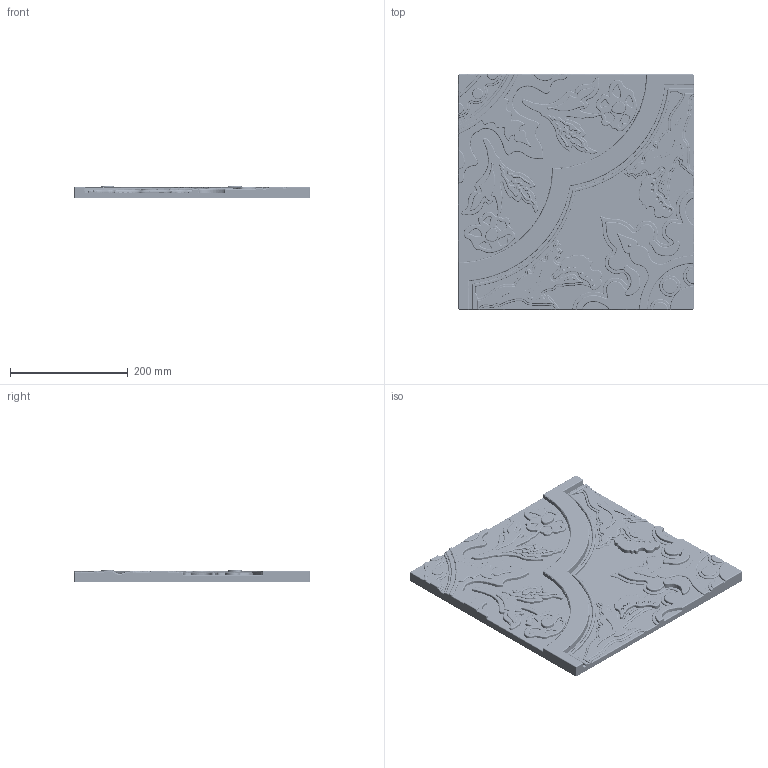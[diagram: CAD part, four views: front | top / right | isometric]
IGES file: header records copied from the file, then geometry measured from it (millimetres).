
Start section: SolidWorks IGES file using analytic representation for surfaces
Global section: file name: C:\Users\KAFLARNIA\Desktop\Modele CeramicWall\MODELE STRONA\Marrakesh_40x40_IGES.IGS; native system: SolidWorks 2020; preprocessor: SolidWorks 2020; author: KAFLARNIA; date: 220602.151253; units: millimetre
Bounding box: 400 x 400 x 22 mm (x, y, z)
Surface area: 379946.1 mm2 (no closed solid volume)
Topology: 0 solids, 0 shells, 1261 faces, 34639 edges, 37513 vertices
Faces by surface type: bspline 912, revolution 349
